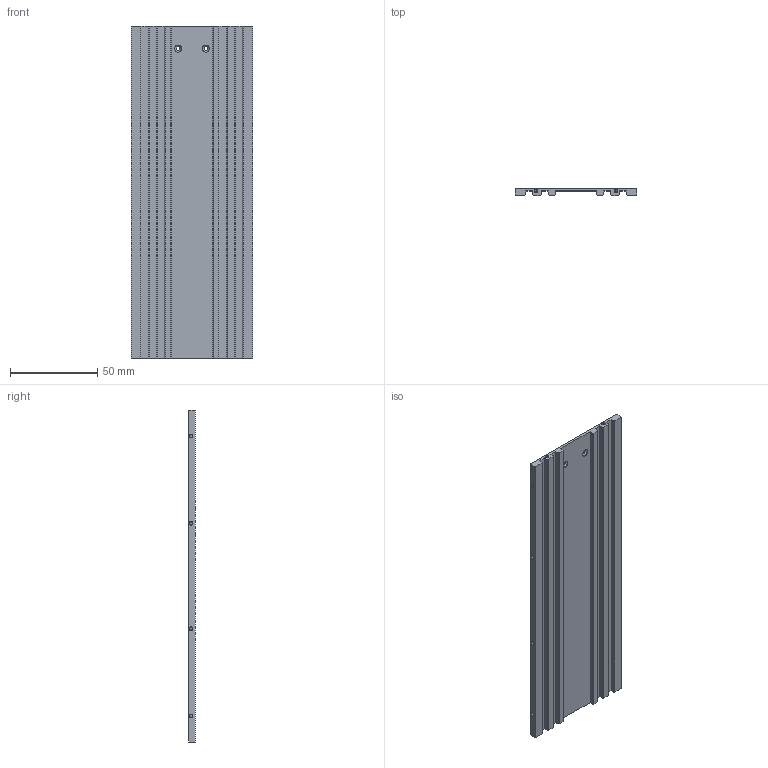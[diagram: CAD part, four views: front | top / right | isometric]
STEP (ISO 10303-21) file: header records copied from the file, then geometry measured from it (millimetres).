
FILE_DESCRIPTION (( 'STEP AP203' ), '1' );
FILE_NAME ('干扰枪-电池盒1-.STEP', '2026-09-24T09:40:43', ( '' ), ( '' ), 'SwSTEP 2.0', 'SolidWorks 2016', '' );
FILE_SCHEMA (( 'CONFIG_CONTROL_DESIGN' ));
Length unit declared in the file: millimetre
Products named in the file (1): 干扰枪-电池盒1-
Bounding box: 69.9 x 4 x 190.5 mm (x, y, z)
Volume: 33807.5 mm3; surface area: 33136.7 mm2
Topology: 1 solids, 1 shells, 112 faces, 266 edges, 160 vertices
Faces by surface type: plane 44, cone 36, cylinder 32
Entity records: 3227 total; most frequent: DIRECTION 572, CARTESIAN_POINT 531, ORIENTED_EDGE 516, EDGE_CURVE 258, AXIS2_PLACEMENT_3D 201, VECTOR 170, LINE 170, VERTEX_POINT 160
